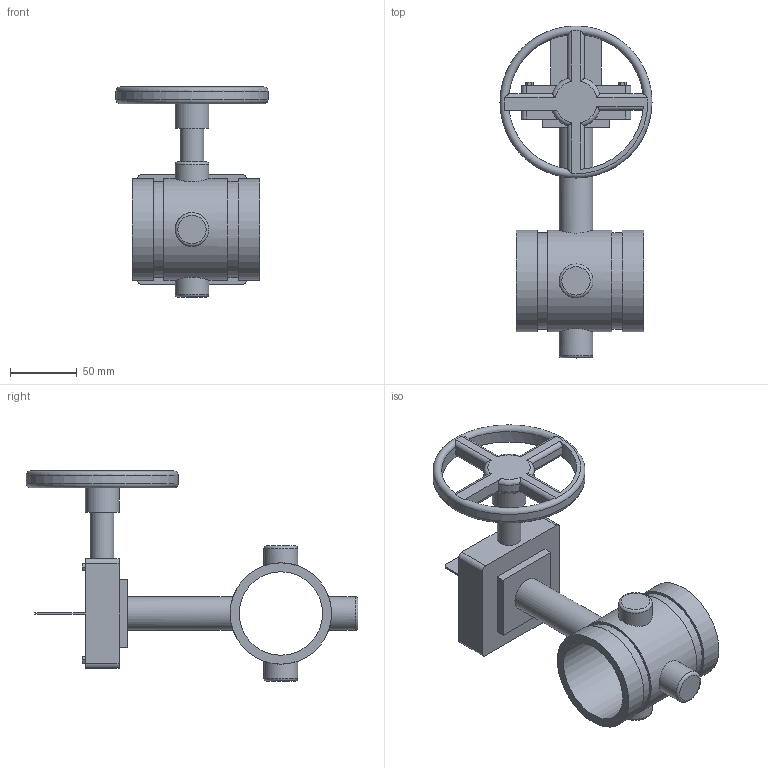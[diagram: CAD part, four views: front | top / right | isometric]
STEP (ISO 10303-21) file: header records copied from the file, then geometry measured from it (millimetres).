
FILE_DESCRIPTION(/* description */ ('VIC FIRELOCK BUTTERFLY VALVE SERIES 707-C W/ WEATHERPROOF ACTUATOR FOR 300 PSI','CAx-IF Rec.Pracs.---Representation and Presentation of Product Manufacturing Information (PMI)---4.0---2014-10-13'),/* implementation_level */ '2;1');
FILE_NAME(/* name */ 'C:\Users\Vjadhav\AppData\Roaming\Autodesk\ApplicationPlugins\Back Up\Victaulic_FP-FireLock_Valve Butterfly_Series 707C (OGS)-Closed\Victaulic_FP-FireLock_Valve Butterfly_Series 707C (OGS)-Closed_02.5 (76.1) (65).stp',/* time_stamp */ '2020-07-20T15:14:49+06:00',/* author */ ('kkamble'),/* organization */ ('Victaulic'),/* preprocessor_version */ 'ST-DEVELOPER v17.2',/* originating_system */ 'Autodesk Inventor 2019',/* authorisation */ '');
FILE_SCHEMA (('AP242_MANAGED_MODEL_BASED_3D_ENGINEERING_MIM_LF { 1 0 10303 442 1 1 4 }'));
Length unit declared in the file: inch
Products named in the file (1): 707C-02.5 (76.1)
Bounding box: 114.3 x 249.43 x 157.99 mm (x, y, z)
Volume: 464751.1 mm3; surface area: 104300.1 mm2
Topology: 1 solids, 1 shells, 119 faces, 311 edges, 208 vertices
Faces by surface type: plane 66, cylinder 40, torus 13
Full cylindrical faces by diameter (mm): 17.78 x1, 25.4 x5, 62.713 x1, 72.263 x2, 76.2 x3, 114.3 x1
Entity records: 4402 total; most frequent: CARTESIAN_POINT 1160, DIRECTION 629, ORIENTED_EDGE 622, EDGE_CURVE 311, AXIS2_PLACEMENT_3D 225, VERTEX_POINT 208, LINE 179, VECTOR 179
